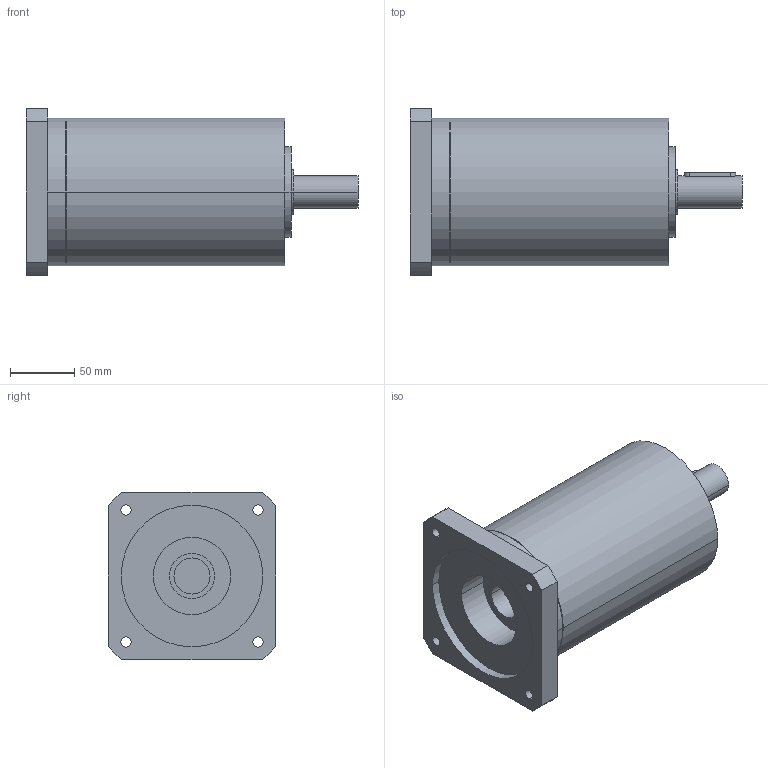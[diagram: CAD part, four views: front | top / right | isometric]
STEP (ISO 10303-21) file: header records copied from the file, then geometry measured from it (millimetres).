
FILE_DESCRIPTION(('CoCreate Modeling STEP Export'),'2;1');
FILE_NAME('GPR125_ig-9-12-16-20-28-35_25_B14_28_P11.stp','2014-08-26T14:11:40',(''),(''),'CoCreate Modeling STEP processor for AP214 (Solid Model)','CoCreate Modeling 16.00C 25-Feb-2009 (C) Parametric Technology GmbH','');
FILE_SCHEMA(('AUTOMOTIVE_DESIGN { 1 0 10303 214 1 1 1 1 }'));
Length unit declared in the file: millimetre
Products named in the file (2): GPR125_ig-9-12-16-20-28-35_25_B14_28_P11
Assembly tree (1 placements, depth 2):
  GPR125_ig-9-12-16-20-28-35_25_B14_28_P11
    GPR125_ig-9-12-16-20-28-35_25_B14_28_P11
Bounding box: 258 x 130 x 130 mm (x, y, z)
Volume: 2071088.4 mm3; surface area: 130617.2 mm2
Topology: 1 solids, 1 shells, 68 faces, 187 edges, 133 vertices
Faces by surface type: cylinder 42, plane 22, cone 4
Entity records: 1923 total; most frequent: ORIENTED_EDGE 370, CARTESIAN_POINT 362, DIRECTION 258, EDGE_CURVE 185, VERTEX_POINT 133, AXIS2_PLACEMENT_3D 97, EDGE_LOOP 90, FACE_OUTER_BOUND 68
